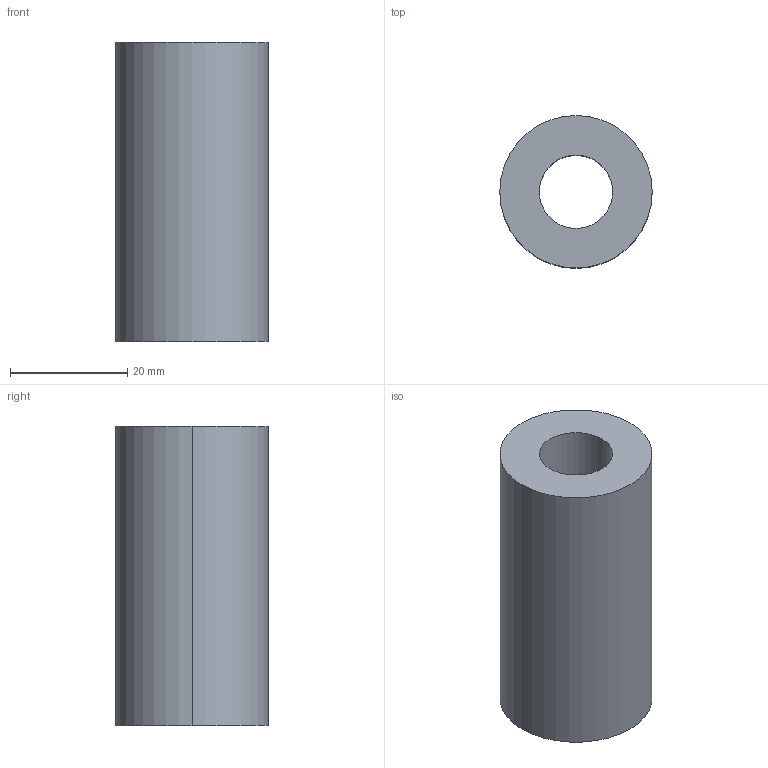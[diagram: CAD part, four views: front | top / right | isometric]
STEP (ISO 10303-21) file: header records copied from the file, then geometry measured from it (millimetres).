
FILE_DESCRIPTION (( 'STEP AP214' ), '1' );
FILE_NAME ('BRV-26X051.STEP', '2020-07-22T09:51:46', ( 'August' ), ( '' ), 'SwSTEP 2.0', 'SolidWorks 2018', '' );
FILE_SCHEMA (( 'AUTOMOTIVE_DESIGN' ));
Length unit declared in the file: millimetre
Products named in the file (1): BRV-26X051
Bounding box: 26 x 26 x 51 mm (x, y, z)
Volume: 20818.7 mm3; surface area: 6984.9 mm2
Topology: 1 solids, 1 shells, 6 faces, 12 edges, 8 vertices
Faces by surface type: cylinder 4, plane 2
Entity records: 202 total; most frequent: DIRECTION 34, CARTESIAN_POINT 27, ORIENTED_EDGE 24, AXIS2_PLACEMENT_3D 15, EDGE_CURVE 12, VERTEX_POINT 8, CIRCLE 8, EDGE_LOOP 8
